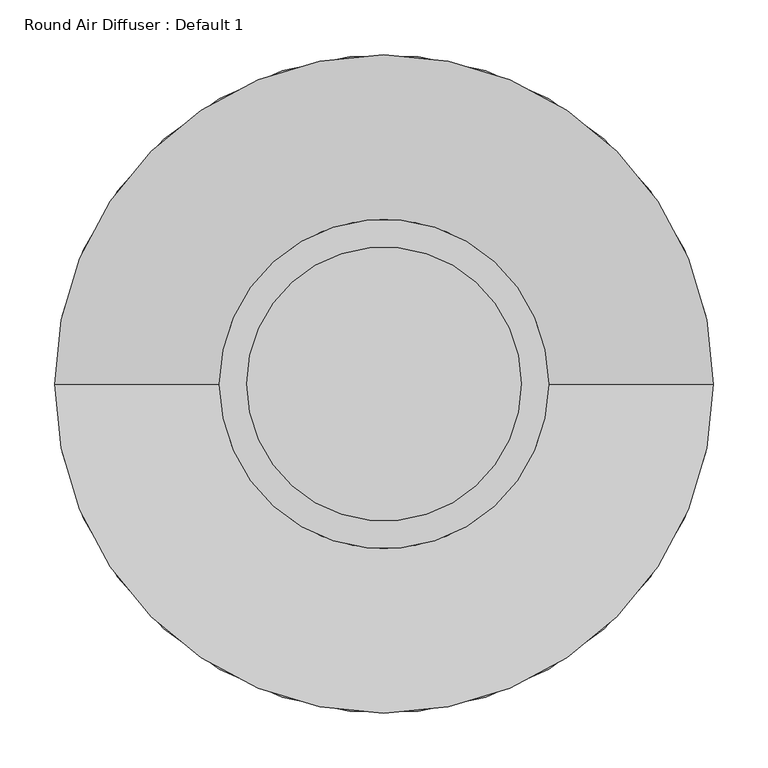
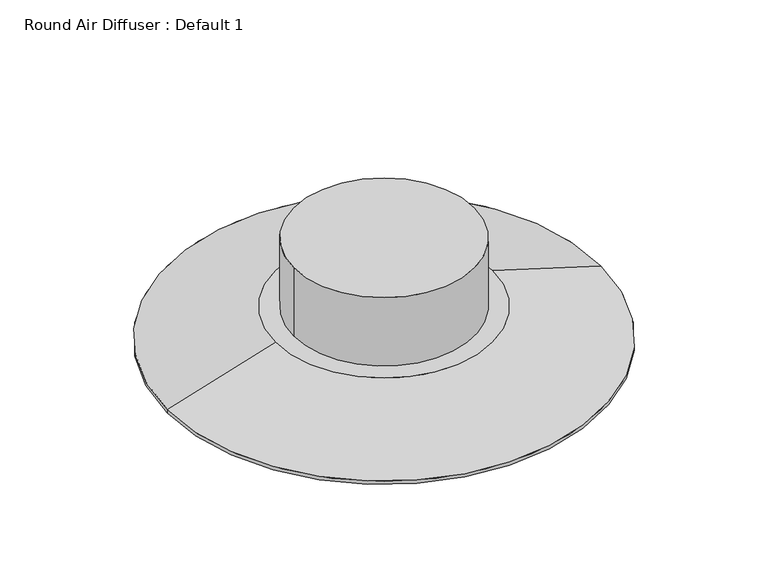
"""IFC4 building model written with IfcOpenShell, lengths in millimetres: proxy geometry, Round Air Diffuser : Default 1."""

from ifc_helpers import new_model, si_unit, point, frame, origin, origin_2d, place, context, project, spatial, polyline, circle_curve, trimmed, segment, composite_curve, outline, extrude, source, transform, mapped, element, save
from ifc_brep_helpers import plane_surface, revolved_surface, advanced_brep


def round_air_diffuser_default_1_4e63e813(model_context):
    return source(origin(), model_context, "Body", "SolidModel", [
        extrude(outline(composite_curve([segment(trimmed(circle_curve(origin_2d(), 125.0), [point((-125.0, 0.0))], [point((125.0, 0.0))], False, "CARTESIAN"), True, "CONTINUOUS"), segment(trimmed(circle_curve(origin_2d(), 125.0), [point((125.0, 0.0))], [point((-125.0, 0.0))], False, "CARTESIAN"), True, "CONTINUOUS")], self_intersect=False)), frame((0.0, 0.0, 2484.4), z_axis=(0.0, 0.0, 1.0), x_axis=(1.0, 0.0, 0.0)), (0.0, 0.0, 1.0), 100.0),
        extrude(outline(composite_curve([segment(trimmed(circle_curve(origin_2d(), 166.5), [point((-166.5, 0.0))], [point((166.5, 0.0))], False, "CARTESIAN"), True, "CONTINUOUS"), segment(trimmed(circle_curve(origin_2d(), 166.5), [point((166.5, 0.0))], [point((-166.5, 0.0))], False, "CARTESIAN"), True, "CONTINUOUS")], self_intersect=False)), frame((0.0, 0.0, 2423.4), z_axis=(0.0, 0.0, 1.0), x_axis=(1.0, 0.0, 0.0)), (0.0, 0.0, 1.0), 5.0),
        advanced_brep(
        [(-150.0, 0.0, 2484.4), (150.0, 0.0, 2484.4), (-300.0, 0.0, 2438.4), (300.0, 0.0, 2438.4)],
        [
            (0, 1, circle_curve(frame((0.0, 0.0, 2484.4), z_axis=(0.0, 0.0, 1.0), x_axis=(1.0, 0.0, 0.0)), 150.0)),
            (1, 0, circle_curve(frame((0.0, 0.0, 2484.4), z_axis=(0.0, 0.0, 1.0), x_axis=(-1.0, 0.0, 0.0)), 150.0)),
            (2, 3, circle_curve(frame((0.0, 0.0, 2438.4), z_axis=(0.0, 0.0, -1.0), x_axis=(-1.0, 0.0, 0.0)), 300.0)),
            (3, 2, circle_curve(frame((0.0, 0.0, 2438.4), z_axis=(0.0, 0.0, -1.0), x_axis=(1.0, 0.0, 0.0)), 300.0)),
            (2, 0),
            (1, 3),
        ],
        [
            plane_surface(frame((0.0, 0.0, 2484.4), z_axis=(0.0, 0.0, 1.0), x_axis=(0.0, 1.0, 0.0))),
            plane_surface(frame((0.0, 0.0, 2438.4), z_axis=(0.0, 0.0, -1.0), x_axis=(0.0, 1.0, 0.0))),
            revolved_surface(polyline([(-150.0, 0.0, 2484.4), (-300.0, 0.0, 2438.4)]), (0.0, 0.0, 2530.4), (0.0, 0.0, -1.0)),
            revolved_surface(polyline([(150.0, 0.0, 2484.4), (300.0, 0.0, 2438.4)]), (0.0, 0.0, 2530.4), (0.0, 0.0, -1.0)),
        ],
        [
            (0, [[1, 2]]),
            (1, [[3, 4]]),
            (2, [[5, -2, 6, -3]]),
            (3, [[-6, -1, -5, -4]]),
        ],
    ),
        extrude(outline(composite_curve([segment(trimmed(circle_curve(origin_2d(), 300.0), [point((-300.0, 0.0))], [point((300.0, 0.0))], False, "CARTESIAN"), True, "CONTINUOUS"), segment(trimmed(circle_curve(origin_2d(), 300.0), [point((300.0, 0.0))], [point((-300.0, 0.0))], False, "CARTESIAN"), True, "CONTINUOUS")], self_intersect=False), holes=[composite_curve([segment(trimmed(circle_curve(origin_2d(), 274.6), [point((-274.6, 0.0))], [point((274.6, 0.0))], True, "CARTESIAN"), True, "CONTINUOUS"), segment(trimmed(circle_curve(origin_2d(), 274.6), [point((274.6, 0.0))], [point((-274.6, 0.0))], True, "CARTESIAN"), True, "CONTINUOUS")], self_intersect=False)]), frame((0.0, 0.0, 2433.4), z_axis=(0.0, 0.0, 1.0), x_axis=(1.0, 0.0, 0.0)), (0.0, 0.0, 1.0), 5.0),
    ])


if __name__ == "__main__":
    model = new_model("IFC4")
    model_context = context("Model", 3, world=origin())
    ifc_project = project(units=[si_unit("LENGTHUNIT", "METRE", prefix="MILLI")], contexts=[model_context])
    site = spatial("IfcSite", under=ifc_project)
    building = spatial("IfcBuilding", under=site)
    placement = place(None, origin())
    round_air_diffuser_default_1_shape = round_air_diffuser_default_1_4e63e813(model_context)
    element("IfcBuildingElementProxy", 1, Name="Round Air Diffuser : Default 1", ObjectType="Round Air Diffuser : Default 1", at=placement, inside=building, context=model_context, shape_type="MappedRepresentation", body=[
        mapped(round_air_diffuser_default_1_shape, transform((0.0, 0.0, 0.0), x_axis=(1.0, 0.0, 0.0), y_axis=(0.0, 1.0, 0.0), z_axis=(0.0, 0.0, 1.0))),
    ])
    save(model, "model.ifc")
